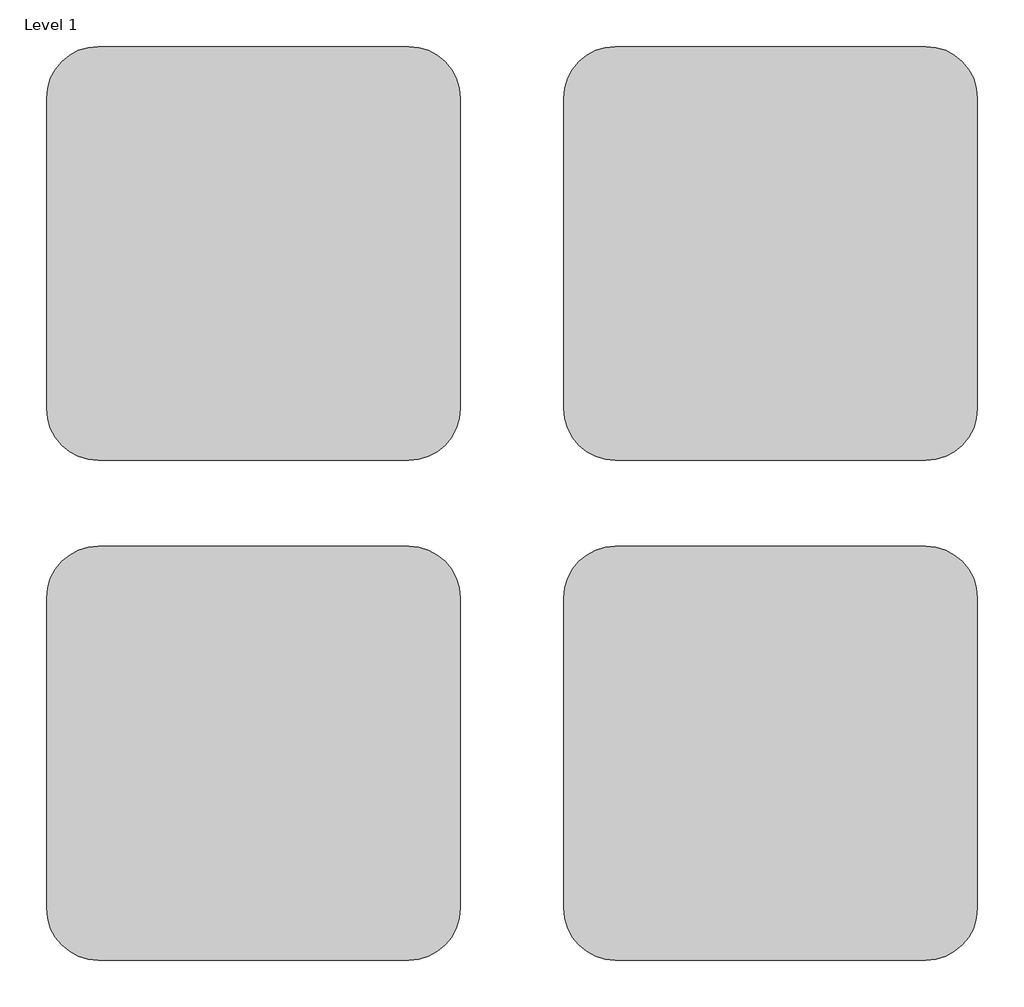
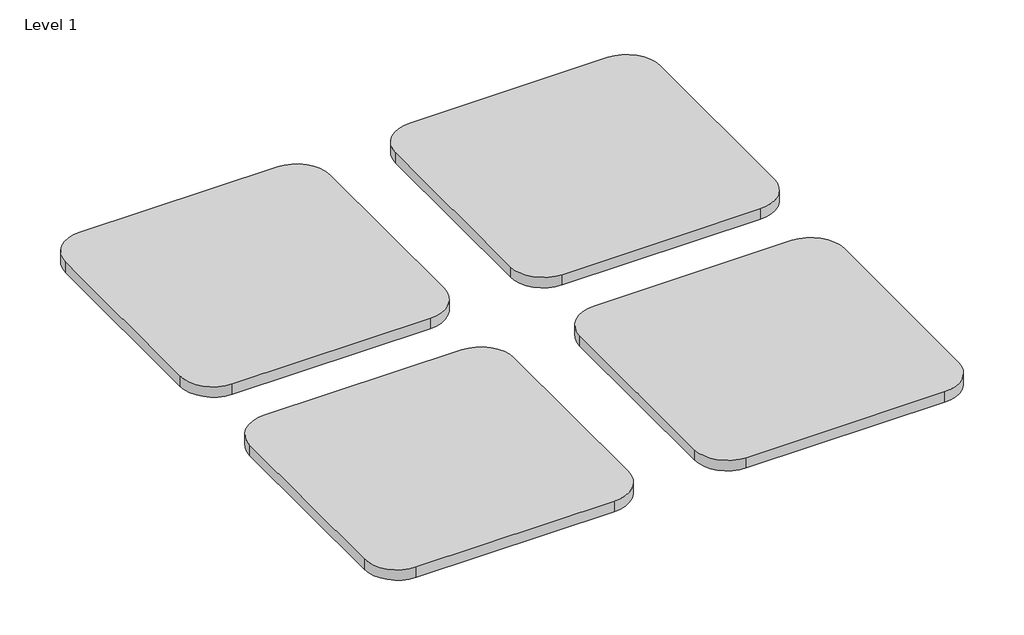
# One storey: 4 proxies.
"""IFC4 building model written with IfcOpenShell, lengths in millimetres."""

from ifc_helpers import new_model, si_unit, origin, place, context, project, spatial, transform, mapped, element, save
from components import materialsample_type_1_9638d12c

model = new_model("IFC4")

# Units and contexts
model_context = context("Model", 3, world=origin())
ifc_project = project(units=[si_unit("LENGTHUNIT", "METRE", prefix="MILLI")], contexts=[model_context])

# Site, building, storey
site = spatial("IfcSite", under=ifc_project)
building = spatial("IfcBuilding", under=site)
storey = spatial("IfcBuildingStorey", under=building, Name="Level 1", Elevation=0.0)

# Proxies
placement = place(None, origin())
materialsample_type_1_shape = materialsample_type_1_9638d12c(model_context)
element("IfcBuildingElementProxy", 1, Name="MaterialSample : Type 1", ObjectType="MaterialSample : Type 1", at=placement, inside=storey, context=model_context, shape_type="MappedRepresentation", body=[
    mapped(materialsample_type_1_shape, transform((357.9336985, 1861.2552324, 0.0), x_axis=(1.0, 0.0, 0.0), y_axis=(0.0, 1.0, 0.0), z_axis=(0.0, 0.0, 1.0))),
])
element("IfcBuildingElementProxy", 2, Name="MaterialSample : Type 1", ObjectType="MaterialSample : Type 1", at=placement, inside=storey, context=model_context, shape_type="MappedRepresentation", body=[
    mapped(materialsample_type_1_shape, transform((1119.9336985, 1861.2552324, 0.0), x_axis=(1.0, 0.0, 0.0), y_axis=(0.0, 1.0, 0.0), z_axis=(0.0, 0.0, 1.0))),
])
element("IfcBuildingElementProxy", 3, Name="MaterialSample : Type 1", ObjectType="MaterialSample : Type 1", at=placement, inside=storey, context=model_context, shape_type="MappedRepresentation", body=[
    mapped(materialsample_type_1_shape, transform((1119.9336985, 1124.8680796, 0.0), x_axis=(1.0, 0.0, 0.0), y_axis=(0.0, 1.0, 0.0), z_axis=(0.0, 0.0, 1.0))),
])
element("IfcBuildingElementProxy", 4, Name="MaterialSample : Type 1", ObjectType="MaterialSample : Type 1", at=placement, inside=storey, context=model_context, shape_type="MappedRepresentation", body=[
    mapped(materialsample_type_1_shape, transform((357.9336985, 1124.8680796, 0.0), x_axis=(1.0, 0.0, 0.0), y_axis=(0.0, 1.0, 0.0), z_axis=(0.0, 0.0, 1.0))),
])

save(model, "model.ifc")
